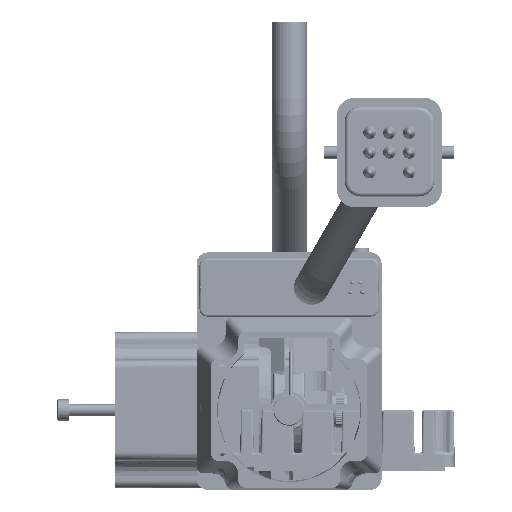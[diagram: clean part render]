
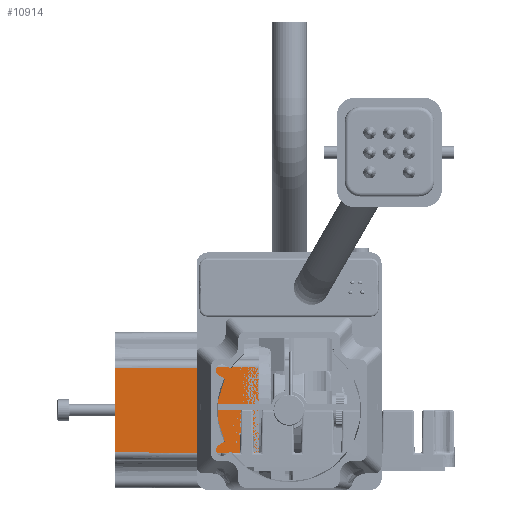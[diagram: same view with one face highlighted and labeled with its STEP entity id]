
A CAD part, front view. The second image highlights one B-rep face of the part: STEP entity #10914.
In plain terms, the highlighted planar face has unit normal (-0.004, -1, 0).
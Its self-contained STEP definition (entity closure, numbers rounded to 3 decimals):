
#10914 = ADVANCED_FACE( '', ( #23420 ), #23421, .T. );
#23420 = FACE_OUTER_BOUND( '', #46989, .T. );
#23421 = PLANE( '', #46990 );
#46989 = EDGE_LOOP( '', ( #75419, #75420, #75421, #75422 ) );
#46990 = AXIS2_PLACEMENT_3D( '', #75423, #75424, #75425 );
#75419 = ORIENTED_EDGE( '', *, *, #92810, .T. );
#75420 = ORIENTED_EDGE( '', *, *, #91842, .T. );
#75421 = ORIENTED_EDGE( '', *, *, #86985, .T. );
#75422 = ORIENTED_EDGE( '', *, *, #89152, .T. );
#75423 = CARTESIAN_POINT( '', ( -7., -20.1, 0. ) );
#75424 = DIRECTION( '', ( -0.004, -1., 0. ) );
#75425 = DIRECTION( '', ( 1., -0.004, 0. ) );
#86985 = EDGE_CURVE( '', #98966, #98967, #98968, .T. );
#89152 = EDGE_CURVE( '', #98967, #102300, #102302, .T. );
#91842 = EDGE_CURVE( '', #105933, #98966, #105934, .T. );
#92810 = EDGE_CURVE( '', #102300, #105933, #107041, .T. );
#98966 = VERTEX_POINT( '', #124601 );
#98967 = VERTEX_POINT( '', #124602 );
#98968 = LINE( '', #124603, #124604 );
#102300 = VERTEX_POINT( '', #132734 );
#102302 = LINE( '', #132736, #132737 );
#105933 = VERTEX_POINT( '', #141622 );
#105934 = LINE( '', #141623, #141624 );
#107041 = LINE( '', #144438, #144439 );
#124601 = CARTESIAN_POINT( '', ( -7.75, -20.097, 10.997 ) );
#124602 = CARTESIAN_POINT( '', ( -44.75, -19.935, 10.835 ) );
#124603 = CARTESIAN_POINT( '', ( -63.491, -19.854, 10.754 ) );
#124604 = VECTOR( '', #152184, 1000. );
#132734 = CARTESIAN_POINT( '', ( -44.75, -19.935, -10.835 ) );
#132736 = CARTESIAN_POINT( '', ( -44.75, -19.935, 0. ) );
#132737 = VECTOR( '', #155121, 1000. );
#141622 = CARTESIAN_POINT( '', ( -7.75, -20.097, -10.997 ) );
#141623 = CARTESIAN_POINT( '', ( -7.75, -20.097, 0. ) );
#141624 = VECTOR( '', #158588, 1000. );
#144438 = CARTESIAN_POINT( '', ( -6.991, -20.1, -11. ) );
#144439 = VECTOR( '', #159584, 1000. );
#152184 = DIRECTION( '', ( -1., 0.004, -0.004 ) );
#155121 = DIRECTION( '', ( 0., 0., -1. ) );
#158588 = DIRECTION( '', ( 0., 0., 1. ) );
#159584 = DIRECTION( '', ( 1., -0.004, -0.004 ) );
